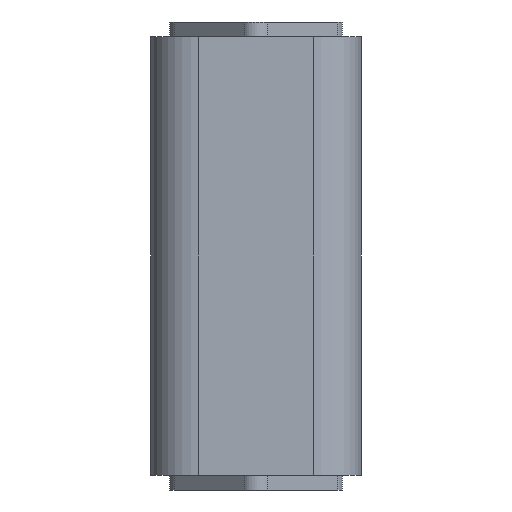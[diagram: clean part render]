
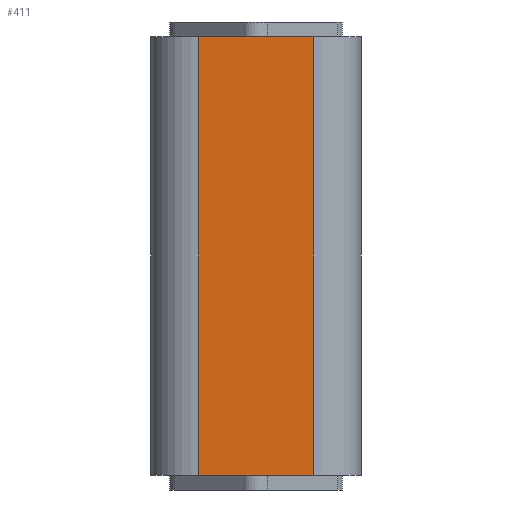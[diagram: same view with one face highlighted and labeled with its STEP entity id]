
A CAD part, front view. The second image highlights one B-rep face of the part: STEP entity #411.
In plain terms, the highlighted planar face has unit normal (0, -1, 0).
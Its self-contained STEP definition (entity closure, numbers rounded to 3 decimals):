
#346=CARTESIAN_POINT('',(19.5,-36.,150.0));
#347=VERTEX_POINT('',#346);
#355=CARTESIAN_POINT('',(19.5,-36.,0.0));
#356=VERTEX_POINT('',#355);
#357=CARTESIAN_POINT('',(19.5,-36.,0.0));
#358=DIRECTION('',(0.0,0.0,1.0));
#359=VECTOR('',#358,150.0);
#360=LINE('',#357,#359);
#361=EDGE_CURVE('',#356,#347,#360,.T.);
#381=CARTESIAN_POINT('',(19.5,-36.,0.0));
#382=DIRECTION('',(0.0,-1.0,0.0));
#383=DIRECTION('',(0.0,0.0,-1.0));
#384=AXIS2_PLACEMENT_3D('',#381,#382,#383);
#385=PLANE('',#384);
#386=CARTESIAN_POINT('',(-19.5,-36.,150.0));
#387=VERTEX_POINT('',#386);
#388=CARTESIAN_POINT('',(19.5,-36.,150.0));
#389=DIRECTION('',(-1.0,0.0,0.0));
#390=VECTOR('',#389,39.);
#391=LINE('',#388,#390);
#392=EDGE_CURVE('',#347,#387,#391,.T.);
#393=ORIENTED_EDGE('',*,*,#392,.T.);
#394=CARTESIAN_POINT('',(-19.5,-36.,0.0));
#395=VERTEX_POINT('',#394);
#396=CARTESIAN_POINT('',(-19.5,-36.,0.0));
#397=DIRECTION('',(0.0,0.0,1.0));
#398=VECTOR('',#397,150.0);
#399=LINE('',#396,#398);
#400=EDGE_CURVE('',#395,#387,#399,.T.);
#401=ORIENTED_EDGE('',*,*,#400,.F.);
#402=CARTESIAN_POINT('',(-19.5,-36.,0.0));
#403=DIRECTION('',(1.0,0.0,0.0));
#404=VECTOR('',#403,39.);
#405=LINE('',#402,#404);
#406=EDGE_CURVE('',#395,#356,#405,.T.);
#407=ORIENTED_EDGE('',*,*,#406,.T.);
#408=ORIENTED_EDGE('',*,*,#361,.T.);
#409=EDGE_LOOP('',(#393,#401,#407,#408));
#410=FACE_OUTER_BOUND('',#409,.T.);
#411=ADVANCED_FACE('',(#410),#385,.T.);
